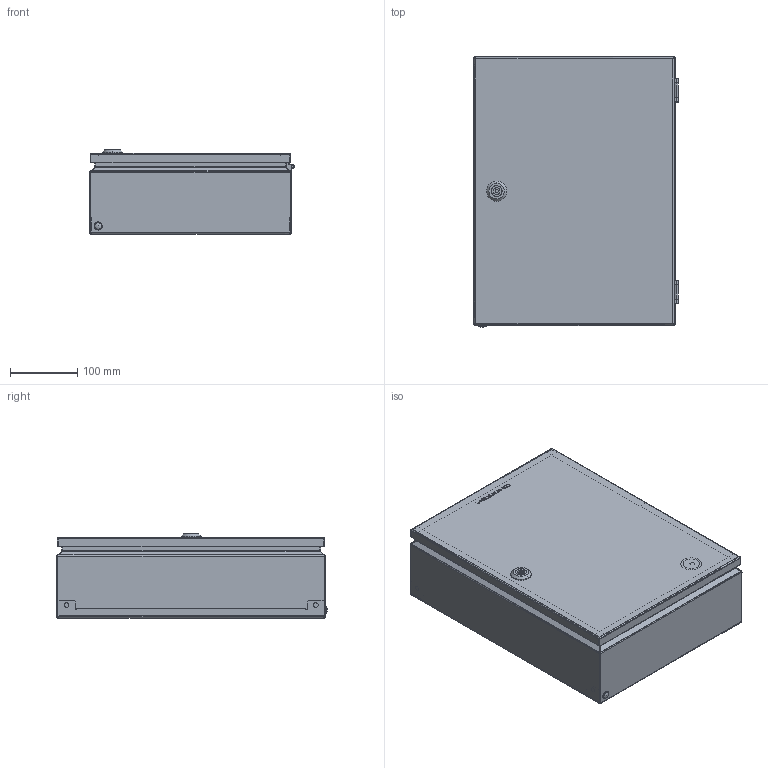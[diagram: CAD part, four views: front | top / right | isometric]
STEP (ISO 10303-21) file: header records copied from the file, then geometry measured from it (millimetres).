
FILE_DESCRIPTION (( 'STEP AP214' ), '1' );
FILE_NAME ('CCS 40.30.12-J Ñèãíàëüíûé øêàô÷èê.STEP', '2023-04-06T09:00:20', ( '' ), ( '' ), 'SwSTEP 2.0', 'SolidWorks 2019', '' );
FILE_SCHEMA (( 'AUTOMOTIVE_DESIGN' ));
Length unit declared in the file: millimetre
Products named in the file (1): CCS 40.30.12-J Ñèãíàëüíûé øêàô÷èê
Bounding box: 304.51 x 402.5 x 125.19 mm (x, y, z)
Volume: 837726.9 mm3; surface area: 1176206 mm2
Topology: 24 solids, 24 shells, 2187 faces, 5868 edges, 3725 vertices
Faces by surface type: plane 870, cylinder 605, bspline 582, cone 94, torus 35, sphere 1
Entity records: 126025 total; most frequent: CARTESIAN_POINT 51125, ORIENTED_EDGE 11626, DIRECTION 8718, EDGE_CURVE 5813, VERTEX_POINT 3723, LINE 3060, VECTOR 3060, AXIS2_PLACEMENT_3D 2829
